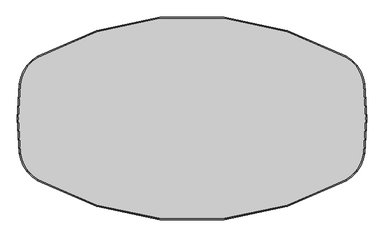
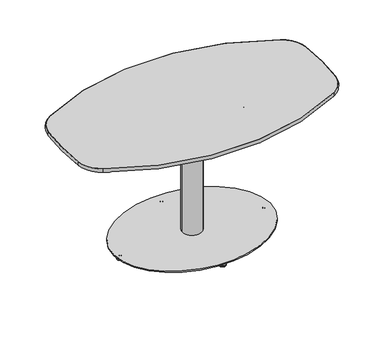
"""IFC4 building model written with IfcOpenShell, lengths in millimetres: furniture geometry, SmithSystem_AM_Table_Education_Flowform_LearnLounge_CurvedRectangle : NoPower."""

from ifc_helpers import new_model, si_unit, point, frame, frame_2d, origin, origin_2d, place, context, project, spatial, polyline, circle_curve, ellipse_curve, trimmed, segment, composite_curve, outline, extrude, faceted_brep, source, transform, mapped, element, save
from ifc_brep_helpers import plane_surface, cylinder_surface, revolved_surface, extruded_surface, advanced_brep


def furniture_f4e4fc7d(model_context):
    return source(origin(), model_context, "Body", "SolidModel", [
        advanced_brep(
        [(598.6241504, -239.2957646, 696.5415682), (-598.6241504, -239.2957646, 696.5415682), (-598.6241504, -239.2957646, 715.5915682), (598.6241504, -239.2957646, 715.5915682), (599.1128879, -240.1598287, 715.5915682), (-599.1128879, -240.1598287, 715.5915682), (-599.1128879, -240.1598287, 696.5415682), (599.1128879, -240.1598287, 696.5415682), (668.5184103, 133.0880849, 696.5415682), (668.4683181, -133.387539, 696.5415682), (668.4683181, -133.387539, 715.5915682), (668.5184103, 133.0880849, 715.5915682), (669.5051621, 133.1966758, 715.5915682), (669.455029, -133.4965009, 715.5915682), (669.455029, -133.4965009, 696.5415682), (669.5051621, 133.1966758, 696.5415682), (598.4102532, 239.416722, 696.5415682), (598.4102532, 239.416722, 715.5915682), (598.898816, 240.2808849, 715.5915682), (598.898816, 240.2808849, 696.5415682), (-598.4102532, 239.416722, 696.5415682), (-598.4102532, 239.416722, 715.5915682), (-598.898816, 240.2808849, 715.5915682), (-598.898816, 240.2808849, 696.5415682), (-668.5184103, 133.0880849, 696.5415682), (-668.5184103, 133.0880849, 715.5915682), (-669.5051621, 133.1966758, 715.5915682), (-669.5051621, 133.1966758, 696.5415682), (-668.4683181, -133.387539, 696.5415682), (-668.4683181, -133.387539, 715.5915682), (-669.455029, -133.4965009, 715.5915682), (-669.455029, -133.4965009, 696.5415682)],
        [
            (0, 1, circle_curve(frame((0.0, 819.0426475, 696.5415682), z_axis=(0.0, 0.0, -1.0), x_axis=(-0.49232704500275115, -0.8704102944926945, 0.0)), 1215.907508)),
            (1, 2),
            (2, 3, circle_curve(frame((0.0, 819.0426475, 715.5915682), z_axis=(0.0, 0.0, 1.0), x_axis=(-0.49232704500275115, -0.8704102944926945, 0.0)), 1215.907508)),
            (3, 0),
            (4, 5, circle_curve(frame((0.0, 819.0426475, 715.5915682), z_axis=(0.0, 0.0, -1.0), x_axis=(-0.49232704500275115, -0.8704102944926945, 0.0)), 1216.900217)),
            (5, 6, circle_curve(frame((-592.6026809, -228.650099, 706.0665682), z_axis=(0.8704102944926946, -0.492327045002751, 0.0), x_axis=(0.492327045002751, 0.8704102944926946, 0.0)), 16.2966959)),
            (6, 7, circle_curve(frame((0.0, 819.0426475, 696.5415682), z_axis=(0.0, 0.0, 1.0), x_axis=(-0.49232704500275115, -0.8704102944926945, 0.0)), 1216.900217)),
            (7, 4, circle_curve(frame((592.6026809, -228.650099, 706.0665682), z_axis=(-0.8704102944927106, -0.4923270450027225, 0.0), x_axis=(-0.4923270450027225, 0.8704102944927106, 0.0)), 16.2966959)),
            (8, 9, circle_curve(frame((-540.1313615, 0.0774707, 696.5415682), z_axis=(0.0, 0.0, -1.0), x_axis=(0.9939578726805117, -0.109762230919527, 0.0)), 1215.9465837)),
            (9, 10),
            (10, 11, circle_curve(frame((-540.1313615, 0.0774707, 715.5915682), z_axis=(0.0, 0.0, 1.0), x_axis=(0.9939578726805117, -0.109762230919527, 0.0)), 1215.9465837)),
            (11, 8),
            (12, 13, circle_curve(frame((-540.1313615, 0.0774707, 715.5915682), z_axis=(0.0, 0.0, -1.0), x_axis=(0.9939578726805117, -0.109762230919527, 0.0)), 1216.9392927)),
            (13, 14, circle_curve(frame((656.3115879, -132.0450778, 706.0665682), z_axis=(0.10976223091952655, 0.9939578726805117, 0.0), x_axis=(-0.9939578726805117, 0.10976223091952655, 0.0)), 16.2966959)),
            (14, 15, circle_curve(frame((-540.1313615, 0.0774707, 696.5415682), z_axis=(0.0, 0.0, 1.0), x_axis=(0.9939578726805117, -0.109762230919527, 0.0)), 1216.9392927)),
            (15, 12, circle_curve(frame((656.3611762, 131.7501943, 706.0665682), z_axis=(0.10938853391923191, -0.9939990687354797, 0.0), x_axis=(-0.9939990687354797, -0.10938853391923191, 0.0)), 16.2966959)),
            (16, 8, circle_curve(frame((529.6567404, 117.8065067, 696.5415682), z_axis=(0.0, 0.0, -1.0), x_axis=(0.9939990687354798, 0.10938853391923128, 0.0)), 139.7)),
            (11, 17, circle_curve(frame((529.6567404, 117.8065067, 715.5915682), z_axis=(0.0, 0.0, 1.0), x_axis=(0.9939990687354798, 0.10938853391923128, 0.0)), 139.7)),
            (17, 16),
            (18, 12, circle_curve(frame((529.6567404, 117.8065067, 715.5915682), z_axis=(0.0, 0.0, -1.0), x_axis=(0.9939990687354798, 0.10938853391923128, 0.0)), 140.692709)),
            (15, 19, circle_curve(frame((529.6567404, 117.8065067, 696.5415682), z_axis=(0.0, 0.0, 1.0), x_axis=(0.9939990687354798, 0.10938853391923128, 0.0)), 140.692709)),
            (19, 18, circle_curve(frame((592.3909352, 228.7698398, 706.0665682), z_axis=(0.8705097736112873, -0.49215112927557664, 0.0), x_axis=(-0.49215112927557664, -0.8705097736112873, 0.0)), 16.2966959)),
            (20, 16, circle_curve(frame((0.0, -819.0426475, 696.5415682), z_axis=(0.0, 0.0, -1.0), x_axis=(0.49215112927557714, 0.870509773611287, 0.0)), 1215.907508)),
            (17, 21, circle_curve(frame((0.0, -819.0426475, 715.5915682), z_axis=(0.0, 0.0, 1.0), x_axis=(0.49215112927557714, 0.870509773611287, 0.0)), 1215.907508)),
            (21, 20),
            (22, 18, circle_curve(frame((0.0, -819.0426475, 715.5915682), z_axis=(0.0, 0.0, -1.0), x_axis=(0.49215112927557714, 0.870509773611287, 0.0)), 1216.900217)),
            (19, 23, circle_curve(frame((0.0, -819.0426475, 696.5415682), z_axis=(0.0, 0.0, 1.0), x_axis=(0.49215112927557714, 0.870509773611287, 0.0)), 1216.900217)),
            (23, 22, circle_curve(frame((-592.3909352, 228.7698398, 706.0665682), z_axis=(0.8705097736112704, 0.4921511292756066, 0.0), x_axis=(0.4921511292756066, -0.8705097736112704, 0.0)), 16.2966959)),
            (24, 20, circle_curve(frame((-529.6567404, 117.8065067, 696.5415682), z_axis=(0.0, 0.0, -1.0), x_axis=(-0.49215112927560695, 0.8705097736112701, 0.0)), 139.7)),
            (21, 25, circle_curve(frame((-529.6567404, 117.8065067, 715.5915682), z_axis=(0.0, 0.0, 1.0), x_axis=(-0.49215112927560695, 0.8705097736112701, 0.0)), 139.7)),
            (25, 24),
            (26, 22, circle_curve(frame((-529.6567404, 117.8065067, 715.5915682), z_axis=(0.0, 0.0, -1.0), x_axis=(-0.49215112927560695, 0.8705097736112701, 0.0)), 140.692709)),
            (23, 27, circle_curve(frame((-529.6567404, 117.8065067, 696.5415682), z_axis=(0.0, 0.0, 1.0), x_axis=(-0.49215112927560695, 0.8705097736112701, 0.0)), 140.692709)),
            (27, 26, circle_curve(frame((-656.3611762, 131.7501943, 706.0665682), z_axis=(0.10938853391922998, 0.99399906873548, 0.0), x_axis=(0.99399906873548, -0.10938853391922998, 0.0)), 16.2966959)),
            (28, 24, circle_curve(frame((540.1313615, 0.0774707, 696.5415682), z_axis=(0.0, 0.0, -1.0), x_axis=(-0.9939990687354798, 0.10938853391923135, 0.0)), 1215.9465837)),
            (25, 29, circle_curve(frame((540.1313615, 0.0774707, 715.5915682), z_axis=(0.0, 0.0, 1.0), x_axis=(-0.9939990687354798, 0.10938853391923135, 0.0)), 1215.9465837)),
            (29, 28),
            (30, 26, circle_curve(frame((540.1313615, 0.0774707, 715.5915682), z_axis=(0.0, 0.0, -1.0), x_axis=(-0.9939990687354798, 0.10938853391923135, 0.0)), 1216.9392927)),
            (27, 31, circle_curve(frame((540.1313615, 0.0774707, 696.5415682), z_axis=(0.0, 0.0, 1.0), x_axis=(-0.9939990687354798, 0.10938853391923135, 0.0)), 1216.9392927)),
            (31, 30, circle_curve(frame((-656.3115879, -132.0450778, 706.0665682), z_axis=(-0.10976223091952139, 0.9939578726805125, 0.0), x_axis=(0.9939578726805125, 0.10976223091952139, 0.0)), 16.2966959)),
            (1, 28, circle_curve(frame((-530.0753875, -118.1048824, 696.5415682), z_axis=(0.0, 0.0, -1.0), x_axis=(-0.9939578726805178, -0.10976223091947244, 0.0)), 139.2342014)),
            (29, 2, circle_curve(frame((-530.0753875, -118.1048824, 715.5915682), z_axis=(0.0, 0.0, 1.0), x_axis=(-0.9939578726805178, -0.10976223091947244, 0.0)), 139.2342014)),
            (5, 30, circle_curve(frame((-530.0753875, -118.1048824, 715.5915682), z_axis=(0.0, 0.0, -1.0), x_axis=(-0.9939578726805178, -0.10976223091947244, 0.0)), 140.2269104)),
            (31, 6, circle_curve(frame((-530.0753875, -118.1048824, 696.5415682), z_axis=(0.0, 0.0, 1.0), x_axis=(-0.9939578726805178, -0.10976223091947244, 0.0)), 140.2269104)),
            (9, 0, circle_curve(frame((530.0753875, -118.1048824, 696.5415682), z_axis=(0.0, 0.0, -1.0), x_axis=(0.49232704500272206, -0.8704102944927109, 0.0)), 139.2342014)),
            (3, 10, circle_curve(frame((530.0753875, -118.1048824, 715.5915682), z_axis=(0.0, 0.0, 1.0), x_axis=(0.49232704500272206, -0.8704102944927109, 0.0)), 139.2342014)),
            (14, 7, circle_curve(frame((530.0753875, -118.1048824, 696.5415682), z_axis=(0.0, 0.0, -1.0), x_axis=(0.49232704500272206, -0.8704102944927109, 0.0)), 140.2269104)),
            (13, 4, circle_curve(frame((530.0753875, -118.1048824, 715.5915682), z_axis=(0.0, 0.0, -1.0), x_axis=(0.49232704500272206, -0.8704102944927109, 0.0)), 140.2269104)),
        ],
        [
            revolved_surface(polyline([(-598.624150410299, -239.2957646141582, 715.5915682), (-598.624150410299, -239.2957646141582, 696.5415682)]), (0.0, 819.0426475, 0.0), (0.0, 0.0, 1.0)),
            revolved_surface(trimmed(ellipse_curve(frame((-592.6026809, -228.650099, 706.0665682), z_axis=(-0.8704102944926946, 0.492327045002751, 0.0), x_axis=(0.492327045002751, 0.8704102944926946, 0.0)), 16.2966959, 16.2966959), [point((-599.1128879, -240.1598287, 696.5415682))], [point((-599.1128879, -240.1598287, 715.5915682))], True, "CARTESIAN"), (0.0, 819.0426475, 0.0), (0.0, 0.0, 1.0)),
            revolved_surface(polyline([(668.4683181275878, -133.38753900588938, 715.5915682), (668.4683181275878, -133.38753900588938, 696.5415682)]), (-540.1313615, 0.0774707, 0.0), (0.0, 0.0, 1.0)),
            revolved_surface(trimmed(ellipse_curve(frame((656.3115879, -132.0450778, 706.0665682), z_axis=(-0.10976223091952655, -0.9939578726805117, 0.0), x_axis=(-0.9939578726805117, 0.10976223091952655, 0.0)), 16.2966959, 16.2966959), [point((669.455029, -133.4965009, 696.5415682))], [point((669.455029, -133.4965009, 715.5915682))], True, "CARTESIAN"), (-540.1313615, 0.0774707, 0.0), (0.0, 0.0, 1.0)),
            revolved_surface(polyline([(668.5184103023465, 133.08808488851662, 715.5915682), (668.5184103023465, 133.08808488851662, 696.5415682)]), (529.6567404, 117.8065067, 0.0), (0.0, 0.0, 1.0)),
            revolved_surface(trimmed(ellipse_curve(frame((656.3611762, 131.7501943, 706.0665682), z_axis=(0.10938853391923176, -0.9939990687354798, 0.0), x_axis=(-0.9939990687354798, -0.10938853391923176, 0.0)), 16.2966959, 16.2966959), [point((669.5051621, 133.1966758, 696.5415682))], [point((669.5051621, 133.1966758, 715.5915682))], True, "CARTESIAN"), (529.6567404, 117.8065067, 0.0), (0.0, 0.0, 1.0)),
            revolved_surface(polyline([(598.4102531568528, 239.41672202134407, 715.5915682), (598.4102531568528, 239.41672202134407, 696.5415682)]), (0.0, -819.0426475, 0.0), (0.0, 0.0, 1.0)),
            revolved_surface(trimmed(ellipse_curve(frame((592.3909352, 228.7698398, 706.0665682), z_axis=(0.8705097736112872, -0.49215112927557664, 0.0), x_axis=(-0.49215112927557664, -0.8705097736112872, 0.0)), 16.2966959, 16.2966959), [point((598.898816, 240.2808849, 696.5415682))], [point((598.898816, 240.2808849, 715.5915682))], True, "CARTESIAN"), (0.0, -819.0426475, 0.0), (0.0, 0.0, 1.0)),
            revolved_surface(polyline([(-598.4102531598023, 239.41672207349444, 715.5915682), (-598.4102531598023, 239.41672207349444, 696.5415682)]), (-529.6567404, 117.8065067, 0.0), (0.0, 0.0, 1.0)),
            revolved_surface(trimmed(ellipse_curve(frame((-592.3909352, 228.7698398, 706.0665682), z_axis=(0.8705097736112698, 0.49215112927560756, 0.0), x_axis=(0.49215112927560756, -0.8705097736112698, 0.0)), 16.2966959, 16.2966959), [point((-598.898816, 240.2808849, 696.5415682))], [point((-598.898816, 240.2808849, 715.5915682))], True, "CARTESIAN"), (-529.6567404, 117.8065067, 0.0), (0.0, 0.0, 1.0)),
            revolved_surface(polyline([(-668.5184103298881, 133.08808481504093, 715.5915682), (-668.5184103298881, 133.08808481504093, 696.5415682)]), (540.1313615, 0.0774707, 0.0), (0.0, 0.0, 1.0)),
            revolved_surface(trimmed(ellipse_curve(frame((-656.3611762, 131.7501943, 706.0665682), z_axis=(0.10938853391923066, 0.9939990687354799, 0.0), x_axis=(0.9939990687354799, -0.10938853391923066, 0.0)), 16.2966959, 16.2966959), [point((-669.5051621, 133.1966758, 696.5415682))], [point((-669.5051621, 133.1966758, 715.5915682))], True, "CARTESIAN"), (540.1313615, 0.0774707, 0.0), (0.0, 0.0, 1.0)),
            revolved_surface(polyline([(-668.4683181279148, -133.38753896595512, 715.5915682), (-668.4683181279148, -133.38753896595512, 696.5415682)]), (-530.0753875, -118.1048824, 0.0), (0.0, 0.0, 1.0)),
            revolved_surface(trimmed(ellipse_curve(frame((-656.3115879, -132.0450778, 706.0665682), z_axis=(-0.10976223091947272, 0.9939578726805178, 0.0), x_axis=(0.9939578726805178, 0.10976223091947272, 0.0)), 16.2966959, 16.2966959), [point((-669.455029, -133.4965009, 696.5415682))], [point((-669.455029, -133.4965009, 715.5915682))], True, "CARTESIAN"), (-530.0753875, -118.1048824, 0.0), (0.0, 0.0, 1.0)),
            revolved_surface(polyline([(598.624150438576, -239.2957646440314, 715.5915682), (598.624150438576, -239.2957646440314, 696.5415682)]), (530.0753875, -118.1048824, 0.0), (0.0, 0.0, 1.0)),
            plane_surface(frame((530.0753875, -118.1048824, 696.5415682), z_axis=(0.0, 0.0, -1.0), x_axis=(0.49232704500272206, -0.8704102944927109, 0.0))),
            revolved_surface(trimmed(ellipse_curve(frame((592.6026809, -228.650099, 706.0665682), z_axis=(-0.8704102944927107, -0.4923270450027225, 0.0), x_axis=(-0.4923270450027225, 0.8704102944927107, 0.0)), 16.2966959, 16.2966959), [point((599.1128879, -240.1598287, 696.5415682))], [point((599.1128879, -240.1598287, 715.5915682))], True, "CARTESIAN"), (530.0753875, -118.1048824, 0.0), (0.0, 0.0, 1.0)),
            plane_surface(frame((530.0753875, -118.1048824, 715.5915682), z_axis=(0.0, 0.0, 1.0), x_axis=(0.49232704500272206, -0.8704102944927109, 0.0))),
        ],
        [
            (0, [[1, 2, 3, 4]]),
            (1, [[5, 6, 7, 8]]),
            (2, [[9, 10, 11, 12]]),
            (3, [[13, 14, 15, 16]]),
            (4, [[17, -12, 18, 19]]),
            (5, [[20, -16, 21, 22]]),
            (6, [[23, -19, 24, 25]]),
            (7, [[26, -22, 27, 28]]),
            (8, [[29, -25, 30, 31]]),
            (9, [[32, -28, 33, 34]]),
            (10, [[35, -31, 36, 37]]),
            (11, [[38, -34, 39, 40]]),
            (12, [[41, -37, 42, -2]]),
            (13, [[43, -40, 44, -6]]),
            (14, [[45, -4, 46, -10]]),
            (15, [[47, -7, -44, -39, -33, -27, -21, -15], [-35, -41, -1, -45, -9, -17, -23, -29]]),
            (16, [[48, -8, -47, -14]]),
            (17, [[-38, -43, -5, -48, -13, -20, -26, -32], [-46, -3, -42, -36, -30, -24, -18, -11]]),
        ],
    ),
        extrude(outline(composite_curve([segment(trimmed(circle_curve(frame_2d((540.1313615, 0.0774707)), 1215.9465837), [point((-668.4683181, -133.387539))], [point((-668.5184103, 133.0880849))], False, "CARTESIAN"), True, "CONTINUOUS"), segment(trimmed(circle_curve(frame_2d((-529.6567404, 117.8065067)), 139.7), [point((-668.5184103, 133.0880849))], [point((-598.4102532, 239.416722))], False, "CARTESIAN"), True, "CONTINUOUS"), segment(trimmed(circle_curve(frame_2d((0.0, -819.0426475)), 1215.907508), [point((-598.4102532, 239.416722))], [point((598.4102532, 239.416722))], False, "CARTESIAN"), True, "CONTINUOUS"), segment(trimmed(circle_curve(frame_2d((529.6567404, 117.8065067)), 139.7), [point((598.4102532, 239.416722))], [point((668.5184103, 133.0880849))], False, "CARTESIAN"), True, "CONTINUOUS"), segment(trimmed(circle_curve(frame_2d((-540.1313615, 0.0774707)), 1215.9465837), [point((668.5184103, 133.0880849))], [point((668.4683181, -133.387539))], False, "CARTESIAN"), True, "CONTINUOUS"), segment(trimmed(circle_curve(frame_2d((530.0753875, -118.1048824)), 139.2342014), [point((668.4683181, -133.387539))], [point((598.6241504, -239.2957646))], False, "CARTESIAN"), True, "CONTINUOUS"), segment(trimmed(circle_curve(frame_2d((0.0, 819.0426475)), 1215.907508), [point((598.6241504, -239.2957646))], [point((-598.6241504, -239.2957646))], False, "CARTESIAN"), True, "CONTINUOUS"), segment(trimmed(circle_curve(frame_2d((-530.0753875, -118.1048824)), 139.2342014), [point((-598.6241504, -239.2957646))], [point((-668.4683181, -133.387539))], False, "CARTESIAN"), True, "CONTINUOUS")], self_intersect=False)), frame((0.0, 0.0, 696.5415682), z_axis=(0.0, 0.0, 1.0), x_axis=(1.0, 0.0, 0.0)), (0.0, 0.0, 1.0), 19.05),
        faceted_brep([(84.6581956, 84.4295951, 688.0173792), (-84.198458, 84.4295951, 688.0173792), (-84.198458, -84.427063, 688.0173792), (84.6581956, -84.427063, 688.0173792), (66.4864882, 66.33972, 665.6324083), (66.4864882, -66.3371788, 665.6324083), (-66.1085784, -66.3371788, 665.6324083), (-66.1085784, 66.33972, 665.6324083)], [[[0, 1, 2, 3]], [[4, 5, 6, 7]], [[4, 7, 1, 0]], [[7, 6, 2, 1]], [[6, 5, 3, 2]], [[5, 4, 0, 3]]]),
        extrude(outline(polyline([(117.706142, 117.4775461), (117.706142, -117.4750004), (-117.243861, -117.4750004), (-117.243861, 117.4775461), (117.706142, 117.4775461)])), frame((0.0, 0.0, 688.0173792), z_axis=(0.0, 0.0, 1.0), x_axis=(1.0, 0.0, 0.0)), (0.0, 0.0, 1.0), 3.0226353),
        extrude(outline(composite_curve([segment(trimmed(circle_curve(origin_2d(), 51.0307352), [point((-51.0307352, 0.0))], [point((51.0307352, 0.0))], False, "CARTESIAN"), True, "CONTINUOUS"), segment(trimmed(circle_curve(origin_2d(), 51.0307352), [point((51.0307352, 0.0))], [point((-51.0307352, 0.0))], False, "CARTESIAN"), True, "CONTINUOUS")], self_intersect=False), holes=[composite_curve([segment(trimmed(circle_curve(origin_2d(), 49.8623383), [point((-49.8623383, 0.0))], [point((49.8623383, 0.0))], True, "CARTESIAN"), True, "CONTINUOUS"), segment(trimmed(circle_curve(origin_2d(), 49.8623383), [point((49.8623383, 0.0))], [point((-49.8623383, 0.0))], True, "CARTESIAN"), True, "CONTINUOUS")], self_intersect=False)]), frame((0.0, 0.0, 30.4800005), z_axis=(0.0, 0.0, 1.0), x_axis=(1.0, 0.0, 0.0)), (0.0, 0.0, 1.0), 635.1524079),
        extrude(outline(composite_curve([segment(trimmed(circle_curve(frame_2d((381.2286319, 49.6219644)), 25.4), [point((390.780639, 73.1574517))], [point((406.6286319, 49.6219644))], False, "CARTESIAN"), True, "CONTINUOUS"), segment(polyline([(406.6286319, 49.6219644), (406.6286319, -49.6194278)]), True, "CONTINUOUS"), segment(trimmed(circle_curve(frame_2d((381.2286319, -49.6194278)), 25.4), [point((406.6286319, -49.6194278))], [point((390.7806401, -73.1549146))], False, "CARTESIAN"), True, "CONTINUOUS"), segment(trimmed(circle_curve(frame_2d((0.2298915, 889.135086)), 1038.52392), [point((390.7806401, -73.1549146))], [point((-393.4994358, -71.8587481))], False, "CARTESIAN"), True, "CONTINUOUS"), segment(trimmed(circle_curve(frame_2d((-381.2286319, -49.6194278)), 25.4), [point((-393.4994358, -71.8587481))], [point((-406.6286319, -49.6194278))], False, "CARTESIAN"), True, "CONTINUOUS"), segment(polyline([(-406.6286319, -49.6194278), (-406.6286319, 49.6219644)]), True, "CONTINUOUS"), segment(trimmed(circle_curve(frame_2d((-381.2286319, 49.6219644)), 25.4), [point((-406.6286319, 49.6219644))], [point((-387.948128, 74.1170327))], False, "CARTESIAN"), True, "CONTINUOUS"), segment(trimmed(circle_curve(frame_2d((0.2298915, -889.1326731)), 1038.5240346), [point((-387.948128, 74.1170327))], [point((390.780639, 73.1574517))], False, "CARTESIAN"), True, "CONTINUOUS")], self_intersect=False), holes=[composite_curve([segment(trimmed(circle_curve(frame_2d((-386.0367929, 53.1685479)), 6.1861697), [point((-392.2229625, 53.1685479))], [point((-379.8506232, 53.1685479))], True, "CARTESIAN"), True, "CONTINUOUS"), segment(trimmed(circle_curve(frame_2d((-386.0367929, 53.1685479)), 6.1861697), [point((-379.8506232, 53.1685479))], [point((-392.2229625, 53.1685479))], True, "CARTESIAN"), True, "CONTINUOUS")], self_intersect=False), composite_curve([segment(trimmed(circle_curve(frame_2d((-292.9890022, 87.2680426)), 6.1861697), [point((-299.1751719, 87.2680426))], [point((-286.8028325, 87.2680426))], True, "CARTESIAN"), True, "CONTINUOUS"), segment(trimmed(circle_curve(frame_2d((-292.9890022, 87.2680426)), 6.1861697), [point((-286.8028325, 87.2680426))], [point((-299.1751719, 87.2680426))], True, "CARTESIAN"), True, "CONTINUOUS")], self_intersect=False), composite_curve([segment(trimmed(circle_curve(frame_2d((-196.8017411, 111.1262702)), 6.1861697), [point((-202.9879108, 111.1262702))], [point((-190.6155714, 111.1262702))], True, "CARTESIAN"), True, "CONTINUOUS"), segment(trimmed(circle_curve(frame_2d((-196.8017411, 111.1262702)), 6.1861697), [point((-190.6155714, 111.1262702))], [point((-202.9879108, 111.1262702))], True, "CARTESIAN"), True, "CONTINUOUS")], self_intersect=False), composite_curve([segment(trimmed(circle_curve(frame_2d((-98.7526568, 125.5331488)), 6.1861697), [point((-104.9388265, 125.5331488))], [point((-92.5664872, 125.5331488))], True, "CARTESIAN"), True, "CONTINUOUS"), segment(trimmed(circle_curve(frame_2d((-98.7526568, 125.5331488)), 6.1861697), [point((-92.5664872, 125.5331488))], [point((-104.9388265, 125.5331488))], True, "CARTESIAN"), True, "CONTINUOUS")], self_intersect=False), composite_curve([segment(trimmed(circle_curve(frame_2d((0.0, 130.2772487)), 6.1861697), [point((-6.1861697, 130.2772487))], [point((6.1861697, 130.2772487))], True, "CARTESIAN"), True, "CONTINUOUS"), segment(trimmed(circle_curve(frame_2d((0.0, 130.2772487)), 6.1861697), [point((6.1861697, 130.2772487))], [point((-6.1861697, 130.2772487))], True, "CARTESIAN"), True, "CONTINUOUS")], self_intersect=False), composite_curve([segment(trimmed(circle_curve(frame_2d((386.0367929, 53.1685479)), 6.1861697), [point((379.8506232, 53.1685479))], [point((392.2229625, 53.1685479))], True, "CARTESIAN"), True, "CONTINUOUS"), segment(trimmed(circle_curve(frame_2d((386.0367929, 53.1685479)), 6.1861697), [point((392.2229625, 53.1685479))], [point((379.8506232, 53.1685479))], True, "CARTESIAN"), True, "CONTINUOUS")], self_intersect=False), composite_curve([segment(trimmed(circle_curve(frame_2d((292.9890022, 87.2680426)), 6.1861697), [point((286.8028325, 87.2680426))], [point((299.1751719, 87.2680426))], True, "CARTESIAN"), True, "CONTINUOUS"), segment(trimmed(circle_curve(frame_2d((292.9890022, 87.2680426)), 6.1861697), [point((299.1751719, 87.2680426))], [point((286.8028325, 87.2680426))], True, "CARTESIAN"), True, "CONTINUOUS")], self_intersect=False), composite_curve([segment(trimmed(circle_curve(frame_2d((196.8017411, 111.1262702)), 6.1861697), [point((190.6155714, 111.1262702))], [point((202.9879108, 111.1262702))], True, "CARTESIAN"), True, "CONTINUOUS"), segment(trimmed(circle_curve(frame_2d((196.8017411, 111.1262702)), 6.1861697), [point((202.9879108, 111.1262702))], [point((190.6155714, 111.1262702))], True, "CARTESIAN"), True, "CONTINUOUS")], self_intersect=False), composite_curve([segment(trimmed(circle_curve(frame_2d((98.7526568, 125.5331488)), 6.1861697), [point((92.5664872, 125.5331488))], [point((104.9388265, 125.5331488))], True, "CARTESIAN"), True, "CONTINUOUS"), segment(trimmed(circle_curve(frame_2d((98.7526568, 125.5331488)), 6.1861697), [point((104.9388265, 125.5331488))], [point((92.5664872, 125.5331488))], True, "CARTESIAN"), True, "CONTINUOUS")], self_intersect=False), composite_curve([segment(trimmed(circle_curve(frame_2d((-386.0367929, -53.1685479)), 6.1861697), [point((-392.2229625, -53.1685479))], [point((-379.8506232, -53.1685479))], True, "CARTESIAN"), True, "CONTINUOUS"), segment(trimmed(circle_curve(frame_2d((-386.0367929, -53.1685479)), 6.1861697), [point((-379.8506232, -53.1685479))], [point((-392.2229625, -53.1685479))], True, "CARTESIAN"), True, "CONTINUOUS")], self_intersect=False), composite_curve([segment(trimmed(circle_curve(frame_2d((-292.9890022, -87.2680426)), 6.1861697), [point((-299.1751719, -87.2680426))], [point((-286.8028325, -87.2680426))], True, "CARTESIAN"), True, "CONTINUOUS"), segment(trimmed(circle_curve(frame_2d((-292.9890022, -87.2680426)), 6.1861697), [point((-286.8028325, -87.2680426))], [point((-299.1751719, -87.2680426))], True, "CARTESIAN"), True, "CONTINUOUS")], self_intersect=False), composite_curve([segment(trimmed(circle_curve(frame_2d((-196.8017411, -111.1262702)), 6.1861697), [point((-202.9879108, -111.1262702))], [point((-190.6155714, -111.1262702))], True, "CARTESIAN"), True, "CONTINUOUS"), segment(trimmed(circle_curve(frame_2d((-196.8017411, -111.1262702)), 6.1861697), [point((-190.6155714, -111.1262702))], [point((-202.9879108, -111.1262702))], True, "CARTESIAN"), True, "CONTINUOUS")], self_intersect=False), composite_curve([segment(trimmed(circle_curve(frame_2d((-98.7526568, -125.5331488)), 6.1861697), [point((-104.9388265, -125.5331488))], [point((-92.5664872, -125.5331488))], True, "CARTESIAN"), True, "CONTINUOUS"), segment(trimmed(circle_curve(frame_2d((-98.7526568, -125.5331488)), 6.1861697), [point((-92.5664872, -125.5331488))], [point((-104.9388265, -125.5331488))], True, "CARTESIAN"), True, "CONTINUOUS")], self_intersect=False), composite_curve([segment(trimmed(circle_curve(frame_2d((0.0, -130.2772487)), 6.1861697), [point((-6.1861697, -130.2772487))], [point((6.1861697, -130.2772487))], True, "CARTESIAN"), True, "CONTINUOUS"), segment(trimmed(circle_curve(frame_2d((0.0, -130.2772487)), 6.1861697), [point((6.1861697, -130.2772487))], [point((-6.1861697, -130.2772487))], True, "CARTESIAN"), True, "CONTINUOUS")], self_intersect=False), composite_curve([segment(trimmed(circle_curve(frame_2d((386.0367929, -53.1685479)), 6.1861697), [point((379.8506232, -53.1685479))], [point((392.2229625, -53.1685479))], True, "CARTESIAN"), True, "CONTINUOUS"), segment(trimmed(circle_curve(frame_2d((386.0367929, -53.1685479)), 6.1861697), [point((392.2229625, -53.1685479))], [point((379.8506232, -53.1685479))], True, "CARTESIAN"), True, "CONTINUOUS")], self_intersect=False), composite_curve([segment(trimmed(circle_curve(frame_2d((292.9890022, -87.2680426)), 6.1861697), [point((286.8028325, -87.2680426))], [point((299.1751719, -87.2680426))], True, "CARTESIAN"), True, "CONTINUOUS"), segment(trimmed(circle_curve(frame_2d((292.9890022, -87.2680426)), 6.1861697), [point((299.1751719, -87.2680426))], [point((286.8028325, -87.2680426))], True, "CARTESIAN"), True, "CONTINUOUS")], self_intersect=False), composite_curve([segment(trimmed(circle_curve(frame_2d((196.8017411, -111.1262702)), 6.1861697), [point((190.6155714, -111.1262702))], [point((202.9879108, -111.1262702))], True, "CARTESIAN"), True, "CONTINUOUS"), segment(trimmed(circle_curve(frame_2d((196.8017411, -111.1262702)), 6.1861697), [point((202.9879108, -111.1262702))], [point((190.6155714, -111.1262702))], True, "CARTESIAN"), True, "CONTINUOUS")], self_intersect=False), composite_curve([segment(trimmed(circle_curve(frame_2d((98.7526568, -125.5331488)), 6.1861697), [point((92.5664872, -125.5331488))], [point((104.9388265, -125.5331488))], True, "CARTESIAN"), True, "CONTINUOUS"), segment(trimmed(circle_curve(frame_2d((98.7526568, -125.5331488)), 6.1861697), [point((104.9388265, -125.5331488))], [point((92.5664872, -125.5331488))], True, "CARTESIAN"), True, "CONTINUOUS")], self_intersect=False)]), frame((0.0, 0.0, 691.0400145), z_axis=(0.0, 0.0, 1.0), x_axis=(1.0, 0.0, 0.0)), (0.0, 0.0, 1.0), 5.5015537),
        advanced_brep(
        [(0.0, 274.7331576, 0.0), (17.7495343, 274.7331576, 0.0), (-17.7495343, 274.7331576, 0.0), (17.7495343, 274.7331576, 3.570799), (-17.7495343, 274.7331576, 3.570799), (16.567463, 274.7331576, 5.0466319), (-16.567463, 274.7331576, 5.0466319), (7.9298575, 274.7331576, 10.1285507), (-7.9298575, 274.7331576, 10.1285507), (7.9298575, 274.7331576, 12.7000004), (-7.9298575, 274.7331576, 12.7000004), (5.3644618, 274.7331576, 12.7000004), (-5.3644618, 274.7331576, 12.7000004), (5.3644618, 274.7331576, 17.8079394), (-5.3644618, 274.7331576, 17.8079394), (0.0, 274.7331576, 17.8079394)],
        [
            (0, 1),
            (1, 2, circle_curve(frame((0.0, 274.7331576, 0.0), z_axis=(0.0, 0.0, -1.0), x_axis=(1.0, 0.0, 0.0)), 17.7495343)),
            (2, 0),
            (2, 1, circle_curve(frame((0.0, 274.7331576, 0.0), z_axis=(0.0, 0.0, -1.0), x_axis=(1.0, 0.0, 0.0)), 17.7495343)),
            (1, 3),
            (3, 4, circle_curve(frame((0.0, 274.7331576, 3.570799), z_axis=(0.0, 0.0, -1.0), x_axis=(1.0, 0.0, 0.0)), 17.7495343)),
            (4, 2),
            (4, 3, circle_curve(frame((0.0, 274.7331576, 3.570799), z_axis=(0.0, 0.0, -1.0), x_axis=(1.0, 0.0, 0.0)), 17.7495343)),
            (3, 5, circle_curve(frame((16.2371994, 274.7331576, 3.570799), z_axis=(0.0, -1.0, 0.0), x_axis=(1.0, 0.0, 0.0)), 1.5123349)),
            (5, 6, circle_curve(frame((0.0, 274.7331576, 5.0466319), z_axis=(0.0, 0.0, -1.0), x_axis=(1.0, 0.0, 0.0)), 16.567463)),
            (6, 4, circle_curve(frame((-16.2371994, 274.7331576, 3.570799), z_axis=(0.0, -1.0, 0.0), x_axis=(-1.0, 0.0, 0.0)), 1.5123349)),
            (6, 5, circle_curve(frame((0.0, 274.7331576, 5.0466319), z_axis=(0.0, 0.0, -1.0), x_axis=(1.0, 0.0, 0.0)), 16.567463)),
            (5, 7, circle_curve(frame((20.1361155, 274.7331576, 20.9936944), z_axis=(0.0, 1.0, 0.0), x_axis=(1.0, 0.0, 0.0)), 16.3414834)),
            (7, 8, circle_curve(frame((0.0, 274.7331576, 10.1285507), z_axis=(0.0, 0.0, -1.0), x_axis=(1.0, 0.0, 0.0)), 7.9298575)),
            (8, 6, circle_curve(frame((-20.1361155, 274.7331576, 20.9936944), z_axis=(0.0, 1.0, 0.0), x_axis=(-1.0, 0.0, 0.0)), 16.3414834)),
            (8, 7, circle_curve(frame((0.0, 274.7331576, 10.1285507), z_axis=(0.0, 0.0, -1.0), x_axis=(1.0, 0.0, 0.0)), 7.9298575)),
            (7, 9, circle_curve(frame((7.33499, 274.7331576, 11.4142755), z_axis=(0.0, -1.0, 0.0), x_axis=(1.0, 0.0, 0.0)), 1.4166707)),
            (9, 10, circle_curve(frame((0.0, 274.7331576, 12.7000004), z_axis=(0.0, 0.0, -1.0), x_axis=(1.0, 0.0, 0.0)), 7.9298575)),
            (10, 8, circle_curve(frame((-7.33499, 274.7331576, 11.4142755), z_axis=(0.0, -1.0, 0.0), x_axis=(-1.0, 0.0, 0.0)), 1.4166707)),
            (10, 9, circle_curve(frame((0.0, 274.7331576, 12.7000004), z_axis=(0.0, 0.0, -1.0), x_axis=(1.0, 0.0, 0.0)), 7.9298575)),
            (9, 11),
            (11, 12, circle_curve(frame((0.0, 274.7331576, 12.7000004), z_axis=(0.0, 0.0, -1.0), x_axis=(1.0, 0.0, 0.0)), 5.3644618)),
            (12, 10),
            (12, 11, circle_curve(frame((0.0, 274.7331576, 12.7000004), z_axis=(0.0, 0.0, -1.0), x_axis=(1.0, 0.0, 0.0)), 5.3644618)),
            (11, 13),
            (13, 14, circle_curve(frame((0.0, 274.7331576, 17.8079394), z_axis=(0.0, 0.0, -1.0), x_axis=(1.0, 0.0, 0.0)), 5.3644618)),
            (14, 12),
            (14, 13, circle_curve(frame((0.0, 274.7331576, 17.8079394), z_axis=(0.0, 0.0, -1.0), x_axis=(1.0, 0.0, 0.0)), 5.3644618)),
            (13, 15),
            (15, 14),
        ],
        [
            plane_surface(frame((0.0, 274.7331576, 0.0), z_axis=(0.0, 0.0, -1.0), x_axis=(1.0, 0.0, 0.0))),
            cylinder_surface(frame((0.0, 274.7331576, 24.1299997), z_axis=(0.0, 0.0, -1.0), x_axis=(1.0, 0.0, 0.0)), 17.7495343),
            revolved_surface(trimmed(ellipse_curve(frame((16.2371994, 274.7331576, 3.570799), z_axis=(0.0, 1.0, 0.0), x_axis=(1.0, 0.0, 0.0)), 1.5123349, 1.5123349), [point((16.567463, 274.7331576, 5.0466319))], [point((17.7495343, 274.7331576, 3.570799))], True, "CARTESIAN"), (0.0, 274.7331576, 24.1299997), (0.0, 0.0, -1.0)),
            revolved_surface(trimmed(ellipse_curve(frame((20.1361155, 274.7331576, 20.9936944), z_axis=(0.0, -1.0, 0.0), x_axis=(1.0, 0.0, 0.0)), 16.3414834, 16.3414834), [point((7.9298575, 274.7331576, 10.1285507))], [point((16.567463, 274.7331576, 5.0466319))], True, "CARTESIAN"), (0.0, 274.7331576, 24.1299997), (0.0, 0.0, -1.0)),
            revolved_surface(trimmed(ellipse_curve(frame((7.33499, 274.7331576, 11.4142755), z_axis=(0.0, 1.0, 0.0), x_axis=(1.0, 0.0, 0.0)), 1.4166707, 1.4166707), [point((7.9298575, 274.7331576, 12.7000004))], [point((7.9298575, 274.7331576, 10.1285507))], True, "CARTESIAN"), (0.0, 274.7331576, 24.1299997), (0.0, 0.0, -1.0)),
            plane_surface(frame((0.0, 274.7331576, 12.7000004), z_axis=(0.0, 0.0, 1.0), x_axis=(1.0, 0.0, 0.0))),
            cylinder_surface(frame((0.0, 274.7331576, 24.1299997), z_axis=(0.0, 0.0, -1.0), x_axis=(1.0, 0.0, 0.0)), 5.3644618),
            plane_surface(frame((0.0, 274.7331576, 17.8079394), z_axis=(0.0, 0.0, 1.0), x_axis=(1.0, 0.0, 0.0))),
        ],
        [
            (0, [[1, 2, 3]]),
            (0, [[-3, 4, -1]]),
            (1, [[-2, 5, 6, 7]]),
            (1, [[-4, -7, 8, -5]]),
            (2, [[-6, 9, 10, 11]]),
            (2, [[-8, -11, 12, -9]]),
            (3, [[-10, 13, 14, 15]]),
            (3, [[-12, -15, 16, -13]]),
            (4, [[-14, 17, 18, 19]]),
            (4, [[-16, -19, 20, -17]]),
            (5, [[-18, 21, 22, 23]]),
            (5, [[-20, -23, 24, -21]]),
            (6, [[-22, 25, 26, 27]]),
            (6, [[-24, -27, 28, -25]]),
            (7, [[-26, 29, 30]]),
            (7, [[-28, -30, -29]]),
        ],
    ),
        advanced_brep(
        [(-17.7495343, -274.7331576, 0.0), (17.7495343, -274.7331576, 0.0), (0.0, -274.7331576, 0.0), (-17.7495343, -274.7331576, 3.570799), (17.7495343, -274.7331576, 3.570799), (-16.567463, -274.7331576, 5.0466319), (16.567463, -274.7331576, 5.0466319), (-7.9298575, -274.7331576, 10.1285507), (7.9298575, -274.7331576, 10.1285507), (-7.9298575, -274.7331576, 12.7000004), (7.9298575, -274.7331576, 12.7000004), (-5.3644618, -274.7331576, 12.7000004), (5.3644618, -274.7331576, 12.7000004), (-5.3644618, -274.7331576, 17.8079394), (5.3644618, -274.7331576, 17.8079394), (0.0, -274.7331576, 17.8079394)],
        [
            (0, 1, circle_curve(frame((0.0, -274.7331576, 0.0), z_axis=(0.0, 0.0, -1.0), x_axis=(1.0, 0.0, 0.0)), 17.7495343)),
            (1, 2),
            (2, 0),
            (1, 0, circle_curve(frame((0.0, -274.7331576, 0.0), z_axis=(0.0, 0.0, -1.0), x_axis=(1.0, 0.0, 0.0)), 17.7495343)),
            (3, 4, circle_curve(frame((0.0, -274.7331576, 3.570799), z_axis=(0.0, 0.0, -1.0), x_axis=(1.0, 0.0, 0.0)), 17.7495343)),
            (4, 1),
            (0, 3),
            (4, 3, circle_curve(frame((0.0, -274.7331576, 3.570799), z_axis=(0.0, 0.0, -1.0), x_axis=(1.0, 0.0, 0.0)), 17.7495343)),
            (5, 6, circle_curve(frame((0.0, -274.7331576, 5.0466319), z_axis=(0.0, 0.0, -1.0), x_axis=(1.0, 0.0, 0.0)), 16.567463)),
            (6, 4, circle_curve(frame((16.2371994, -274.7331576, 3.570799), z_axis=(0.0, 1.0, 0.0), x_axis=(1.0, 0.0, 0.0)), 1.5123349)),
            (3, 5, circle_curve(frame((-16.2371994, -274.7331576, 3.570799), z_axis=(0.0, 1.0, 0.0), x_axis=(-1.0, 0.0, 0.0)), 1.5123349)),
            (6, 5, circle_curve(frame((0.0, -274.7331576, 5.0466319), z_axis=(0.0, 0.0, -1.0), x_axis=(1.0, 0.0, 0.0)), 16.567463)),
            (7, 8, circle_curve(frame((0.0, -274.7331576, 10.1285507), z_axis=(0.0, 0.0, -1.0), x_axis=(1.0, 0.0, 0.0)), 7.9298575)),
            (8, 6, circle_curve(frame((20.1361155, -274.7331576, 20.9936944), z_axis=(0.0, -1.0, 0.0), x_axis=(1.0, 0.0, 0.0)), 16.3414834)),
            (5, 7, circle_curve(frame((-20.1361155, -274.7331576, 20.9936944), z_axis=(0.0, -1.0, 0.0), x_axis=(-1.0, 0.0, 0.0)), 16.3414834)),
            (8, 7, circle_curve(frame((0.0, -274.7331576, 10.1285507), z_axis=(0.0, 0.0, -1.0), x_axis=(1.0, 0.0, 0.0)), 7.9298575)),
            (9, 10, circle_curve(frame((0.0, -274.7331576, 12.7000004), z_axis=(0.0, 0.0, -1.0), x_axis=(1.0, 0.0, 0.0)), 7.9298575)),
            (10, 8, circle_curve(frame((7.33499, -274.7331576, 11.4142755), z_axis=(0.0, 1.0, 0.0), x_axis=(1.0, 0.0, 0.0)), 1.4166707)),
            (7, 9, circle_curve(frame((-7.33499, -274.7331576, 11.4142755), z_axis=(0.0, 1.0, 0.0), x_axis=(-1.0, 0.0, 0.0)), 1.4166707)),
            (10, 9, circle_curve(frame((0.0, -274.7331576, 12.7000004), z_axis=(0.0, 0.0, -1.0), x_axis=(1.0, 0.0, 0.0)), 7.9298575)),
            (11, 12, circle_curve(frame((0.0, -274.7331576, 12.7000004), z_axis=(0.0, 0.0, -1.0), x_axis=(1.0, 0.0, 0.0)), 5.3644618)),
            (12, 10),
            (9, 11),
            (12, 11, circle_curve(frame((0.0, -274.7331576, 12.7000004), z_axis=(0.0, 0.0, -1.0), x_axis=(1.0, 0.0, 0.0)), 5.3644618)),
            (13, 14, circle_curve(frame((0.0, -274.7331576, 17.8079394), z_axis=(0.0, 0.0, -1.0), x_axis=(1.0, 0.0, 0.0)), 5.3644618)),
            (14, 12),
            (11, 13),
            (14, 13, circle_curve(frame((0.0, -274.7331576, 17.8079394), z_axis=(0.0, 0.0, -1.0), x_axis=(1.0, 0.0, 0.0)), 5.3644618)),
            (15, 14),
            (13, 15),
        ],
        [
            plane_surface(frame((0.0, -274.7331576, 0.0), z_axis=(0.0, 0.0, -1.0), x_axis=(1.0, 0.0, 0.0))),
            cylinder_surface(frame((0.0, -274.7331576, 24.1299997), z_axis=(0.0, 0.0, 1.0), x_axis=(1.0, 0.0, 0.0)), 17.7495343),
            revolved_surface(trimmed(ellipse_curve(frame((16.2371994, -274.7331576, 3.570799), z_axis=(0.0, -1.0, 0.0), x_axis=(1.0, 0.0, 0.0)), 1.5123349, 1.5123349), [point((17.7495343, -274.7331576, 3.570799))], [point((16.567463, -274.7331576, 5.0466319))], True, "CARTESIAN"), (0.0, -274.7331576, 24.1299997), (0.0, 0.0, 1.0)),
            revolved_surface(trimmed(ellipse_curve(frame((20.1361155, -274.7331576, 20.9936944), z_axis=(0.0, 1.0, 0.0), x_axis=(1.0, 0.0, 0.0)), 16.3414834, 16.3414834), [point((16.567463, -274.7331576, 5.0466319))], [point((7.9298575, -274.7331576, 10.1285507))], True, "CARTESIAN"), (0.0, -274.7331576, 24.1299997), (0.0, 0.0, 1.0)),
            revolved_surface(trimmed(ellipse_curve(frame((7.33499, -274.7331576, 11.4142755), z_axis=(0.0, -1.0, 0.0), x_axis=(1.0, 0.0, 0.0)), 1.4166707, 1.4166707), [point((7.9298575, -274.7331576, 10.1285507))], [point((7.9298575, -274.7331576, 12.7000004))], True, "CARTESIAN"), (0.0, -274.7331576, 24.1299997), (0.0, 0.0, 1.0)),
            plane_surface(frame((0.0, -274.7331576, 12.7000004), z_axis=(0.0, 0.0, 1.0), x_axis=(1.0, 0.0, 0.0))),
            cylinder_surface(frame((0.0, -274.7331576, 24.1299997), z_axis=(0.0, 0.0, 1.0), x_axis=(1.0, 0.0, 0.0)), 5.3644618),
            plane_surface(frame((0.0, -274.7331576, 17.8079394), z_axis=(0.0, 0.0, 1.0), x_axis=(1.0, 0.0, 0.0))),
        ],
        [
            (0, [[1, 2, 3]]),
            (0, [[4, -3, -2]]),
            (1, [[5, 6, -1, 7]]),
            (1, [[8, -7, -4, -6]]),
            (2, [[9, 10, -5, 11]]),
            (2, [[12, -11, -8, -10]]),
            (3, [[13, 14, -9, 15]]),
            (3, [[16, -15, -12, -14]]),
            (4, [[17, 18, -13, 19]]),
            (4, [[20, -19, -16, -18]]),
            (5, [[21, 22, -17, 23]]),
            (5, [[24, -23, -20, -22]]),
            (6, [[25, 26, -21, 27]]),
            (6, [[28, -27, -24, -26]]),
            (7, [[29, -25, 30]]),
            (7, [[-30, -28, -29]]),
        ],
    ),
        advanced_brep(
        [(-372.8135811, 0.0, 0.0), (-390.5631154, 0.0, 0.0), (-355.0640468, 0.0, 0.0), (-390.5631154, 0.0, 3.570799), (-355.0640468, 0.0, 3.570799), (-389.3810441, 0.0, 5.0466319), (-356.2461181, 0.0, 5.0466319), (-380.7434386, 0.0, 10.1285507), (-364.8837235, 0.0, 10.1285507), (-380.7434386, 0.0, 12.7000004), (-364.8837235, 0.0, 12.7000004), (-378.1780429, 0.0, 12.7000004), (-367.4491193, 0.0, 12.7000004), (-378.1780429, 0.0, 17.8079394), (-367.4491193, 0.0, 17.8079394), (-372.8135811, 0.0, 17.8079394)],
        [
            (0, 1),
            (1, 2, circle_curve(frame((-372.8135811, 0.0, 0.0), z_axis=(0.0, 0.0, -1.0), x_axis=(-1.0, 0.0, 0.0)), 17.7495343)),
            (2, 0),
            (2, 1, circle_curve(frame((-372.8135811, 0.0, 0.0), z_axis=(0.0, 0.0, -1.0), x_axis=(-1.0, 0.0, 0.0)), 17.7495343)),
            (1, 3),
            (3, 4, circle_curve(frame((-372.8135811, 0.0, 3.570799), z_axis=(0.0, 0.0, -1.0), x_axis=(-1.0, 0.0, 0.0)), 17.7495343)),
            (4, 2),
            (4, 3, circle_curve(frame((-372.8135811, 0.0, 3.570799), z_axis=(0.0, 0.0, -1.0), x_axis=(-1.0, 0.0, 0.0)), 17.7495343)),
            (3, 5, circle_curve(frame((-389.0507805, 0.0, 3.570799), z_axis=(0.0, 1.0, 0.0), x_axis=(-1.0, 0.0, 0.0)), 1.5123349)),
            (5, 6, circle_curve(frame((-372.8135811, 0.0, 5.0466319), z_axis=(0.0, 0.0, -1.0), x_axis=(-1.0, 0.0, 0.0)), 16.567463)),
            (6, 4, circle_curve(frame((-356.5763817, 0.0, 3.570799), z_axis=(0.0, 1.0, 0.0), x_axis=(1.0, 0.0, 0.0)), 1.5123349)),
            (6, 5, circle_curve(frame((-372.8135811, 0.0, 5.0466319), z_axis=(0.0, 0.0, -1.0), x_axis=(-1.0, 0.0, 0.0)), 16.567463)),
            (5, 7, circle_curve(frame((-392.9496966, 0.0, 20.9936944), z_axis=(0.0, -1.0, 0.0), x_axis=(-1.0, 0.0, 0.0)), 16.3414834)),
            (7, 8, circle_curve(frame((-372.8135811, 0.0, 10.1285507), z_axis=(0.0, 0.0, -1.0), x_axis=(-1.0, 0.0, 0.0)), 7.9298575)),
            (8, 6, circle_curve(frame((-352.6774656, 0.0, 20.9936944), z_axis=(0.0, -1.0, 0.0), x_axis=(1.0, 0.0, 0.0)), 16.3414834)),
            (8, 7, circle_curve(frame((-372.8135811, 0.0, 10.1285507), z_axis=(0.0, 0.0, -1.0), x_axis=(-1.0, 0.0, 0.0)), 7.9298575)),
            (7, 9, circle_curve(frame((-380.1485711, 0.0, 11.4142755), z_axis=(0.0, 1.0, 0.0), x_axis=(-1.0, 0.0, 0.0)), 1.4166707)),
            (9, 10, circle_curve(frame((-372.8135811, 0.0, 12.7000004), z_axis=(0.0, 0.0, -1.0), x_axis=(-1.0, 0.0, 0.0)), 7.9298575)),
            (10, 8, circle_curve(frame((-365.4785911, 0.0, 11.4142755), z_axis=(0.0, 1.0, 0.0), x_axis=(1.0, 0.0, 0.0)), 1.4166707)),
            (10, 9, circle_curve(frame((-372.8135811, 0.0, 12.7000004), z_axis=(0.0, 0.0, -1.0), x_axis=(-1.0, 0.0, 0.0)), 7.9298575)),
            (9, 11),
            (11, 12, circle_curve(frame((-372.8135811, 0.0, 12.7000004), z_axis=(0.0, 0.0, -1.0), x_axis=(-1.0, 0.0, 0.0)), 5.3644618)),
            (12, 10),
            (12, 11, circle_curve(frame((-372.8135811, 0.0, 12.7000004), z_axis=(0.0, 0.0, -1.0), x_axis=(-1.0, 0.0, 0.0)), 5.3644618)),
            (11, 13),
            (13, 14, circle_curve(frame((-372.8135811, 0.0, 17.8079394), z_axis=(0.0, 0.0, -1.0), x_axis=(-1.0, 0.0, 0.0)), 5.3644618)),
            (14, 12),
            (14, 13, circle_curve(frame((-372.8135811, 0.0, 17.8079394), z_axis=(0.0, 0.0, -1.0), x_axis=(-1.0, 0.0, 0.0)), 5.3644618)),
            (13, 15),
            (15, 14),
        ],
        [
            plane_surface(frame((-372.8135811, 0.0, 0.0), z_axis=(0.0, 0.0, -1.0), x_axis=(-1.0, 0.0, 0.0))),
            cylinder_surface(frame((-372.8135811, 0.0, 24.1299997), z_axis=(0.0, 0.0, -1.0), x_axis=(-1.0, 0.0, 0.0)), 17.7495343),
            revolved_surface(trimmed(ellipse_curve(frame((-389.0507805, 0.0, 3.570799), z_axis=(0.0, -1.0, 0.0), x_axis=(-1.0, 0.0, 0.0)), 1.5123349, 1.5123349), [point((-389.3810441, 0.0, 5.0466319))], [point((-390.5631154, 0.0, 3.570799))], True, "CARTESIAN"), (-372.8135811, 0.0, 24.1299997), (0.0, 0.0, -1.0)),
            revolved_surface(trimmed(ellipse_curve(frame((-392.9496966, 0.0, 20.9936944), z_axis=(0.0, 1.0, 0.0), x_axis=(-1.0, 0.0, 0.0)), 16.3414834, 16.3414834), [point((-380.7434386, 0.0, 10.1285507))], [point((-389.3810441, 0.0, 5.0466319))], True, "CARTESIAN"), (-372.8135811, 0.0, 24.1299997), (0.0, 0.0, -1.0)),
            revolved_surface(trimmed(ellipse_curve(frame((-380.1485711, 0.0, 11.4142755), z_axis=(0.0, -1.0, 0.0), x_axis=(-1.0, 0.0, 0.0)), 1.4166707, 1.4166707), [point((-380.7434386, 0.0, 12.7000004))], [point((-380.7434386, 0.0, 10.1285507))], True, "CARTESIAN"), (-372.8135811, 0.0, 24.1299997), (0.0, 0.0, -1.0)),
            plane_surface(frame((-372.8135811, 0.0, 12.7000004), z_axis=(0.0, 0.0, 1.0), x_axis=(-1.0, 0.0, 0.0))),
            cylinder_surface(frame((-372.8135811, 0.0, 24.1299997), z_axis=(0.0, 0.0, -1.0), x_axis=(-1.0, 0.0, 0.0)), 5.3644618),
            plane_surface(frame((-372.8135811, 0.0, 17.8079394), z_axis=(0.0, 0.0, 1.0), x_axis=(-1.0, 0.0, 0.0))),
        ],
        [
            (0, [[1, 2, 3]]),
            (0, [[-3, 4, -1]]),
            (1, [[-2, 5, 6, 7]]),
            (1, [[-4, -7, 8, -5]]),
            (2, [[-6, 9, 10, 11]]),
            (2, [[-8, -11, 12, -9]]),
            (3, [[-10, 13, 14, 15]]),
            (3, [[-12, -15, 16, -13]]),
            (4, [[-14, 17, 18, 19]]),
            (4, [[-16, -19, 20, -17]]),
            (5, [[-18, 21, 22, 23]]),
            (5, [[-20, -23, 24, -21]]),
            (6, [[-22, 25, 26, 27]]),
            (6, [[-24, -27, 28, -25]]),
            (7, [[-26, 29, 30]]),
            (7, [[-28, -30, -29]]),
        ],
    ),
        extrude(outline(polyline([(380.7536124, 7.9374998), (380.7536124, -7.9375004), (364.8684265, -7.9375004), (364.8684265, 7.9374998), (380.7536124, 7.9374998)])), frame((0.0, 0.0, 17.8079394), z_axis=(0.0, 0.0, 1.0), x_axis=(1.0, 0.0, 0.0)), (0.0, 0.0, 1.0), 6.3220603),
        extrude(outline(polyline([(-380.7536124, 7.9374998), (-364.8684265, 7.9374998), (-364.8684265, -7.9375004), (-380.7536124, -7.9375004), (-380.7536124, 7.9374998)])), frame((0.0, 0.0, 17.8079394), z_axis=(0.0, 0.0, 1.0), x_axis=(1.0, 0.0, 0.0)), (0.0, 0.0, 1.0), 6.3220603),
        extrude(outline(polyline([(-7.71398, 282.5775249), (8.1686397, 282.5775249), (8.1686397, 266.702531), (-7.71398, 266.702531), (-7.71398, 282.5775249)])), frame((0.0, 0.0, 17.8079394), z_axis=(0.0, 0.0, 1.0), x_axis=(1.0, 0.0, 0.0)), (0.0, 0.0, 1.0), 6.3220603),
        extrude(outline(polyline([(8.1686397, -266.697469), (8.1686397, -282.572463), (-7.71398, -282.572463), (-7.71398, -266.697469), (8.1686397, -266.697469)])), frame((0.0, 0.0, 17.8079394), z_axis=(0.0, 0.0, 1.0), x_axis=(1.0, 0.0, 0.0)), (0.0, 0.0, 1.0), 6.3220603),
        advanced_brep(
        [(355.0640468, 0.0, 0.0), (390.5631154, 0.0, 0.0), (372.8135811, 0.0, 0.0), (355.0640468, 0.0, 3.570799), (390.5631154, 0.0, 3.570799), (356.2461181, 0.0, 5.0466319), (389.3810441, 0.0, 5.0466319), (364.8837235, 0.0, 10.1285507), (380.7434386, 0.0, 10.1285507), (364.8837235, 0.0, 12.7000004), (380.7434386, 0.0, 12.7000004), (367.4491193, 0.0, 12.7000004), (378.1780429, 0.0, 12.7000004), (367.4491193, 0.0, 17.8079394), (378.1780429, 0.0, 17.8079394), (372.8135811, 0.0, 17.8079394)],
        [
            (0, 1, circle_curve(frame((372.8135811, 0.0, 0.0), z_axis=(0.0, 0.0, -1.0), x_axis=(1.0, 0.0, 0.0)), 17.7495343)),
            (1, 2),
            (2, 0),
            (1, 0, circle_curve(frame((372.8135811, 0.0, 0.0), z_axis=(0.0, 0.0, -1.0), x_axis=(1.0, 0.0, 0.0)), 17.7495343)),
            (3, 4, circle_curve(frame((372.8135811, 0.0, 3.570799), z_axis=(0.0, 0.0, -1.0), x_axis=(1.0, 0.0, 0.0)), 17.7495343)),
            (4, 1),
            (0, 3),
            (4, 3, circle_curve(frame((372.8135811, 0.0, 3.570799), z_axis=(0.0, 0.0, -1.0), x_axis=(1.0, 0.0, 0.0)), 17.7495343)),
            (5, 6, circle_curve(frame((372.8135811, 0.0, 5.0466319), z_axis=(0.0, 0.0, -1.0), x_axis=(1.0, 0.0, 0.0)), 16.567463)),
            (6, 4, circle_curve(frame((389.0507805, 0.0, 3.570799), z_axis=(0.0, 1.0, 0.0), x_axis=(1.0, 0.0, 0.0)), 1.5123349)),
            (3, 5, circle_curve(frame((356.5763817, 0.0, 3.570799), z_axis=(0.0, 1.0, 0.0), x_axis=(-1.0, 0.0, 0.0)), 1.5123349)),
            (6, 5, circle_curve(frame((372.8135811, 0.0, 5.0466319), z_axis=(0.0, 0.0, -1.0), x_axis=(1.0, 0.0, 0.0)), 16.567463)),
            (7, 8, circle_curve(frame((372.8135811, 0.0, 10.1285507), z_axis=(0.0, 0.0, -1.0), x_axis=(1.0, 0.0, 0.0)), 7.9298575)),
            (8, 6, circle_curve(frame((392.9496966, 0.0, 20.9936944), z_axis=(0.0, -1.0, 0.0), x_axis=(1.0, 0.0, 0.0)), 16.3414834)),
            (5, 7, circle_curve(frame((352.6774656, 0.0, 20.9936944), z_axis=(0.0, -1.0, 0.0), x_axis=(-1.0, 0.0, 0.0)), 16.3414834)),
            (8, 7, circle_curve(frame((372.8135811, 0.0, 10.1285507), z_axis=(0.0, 0.0, -1.0), x_axis=(1.0, 0.0, 0.0)), 7.9298575)),
            (9, 10, circle_curve(frame((372.8135811, 0.0, 12.7000004), z_axis=(0.0, 0.0, -1.0), x_axis=(1.0, 0.0, 0.0)), 7.9298575)),
            (10, 8, circle_curve(frame((380.1485711, 0.0, 11.4142755), z_axis=(0.0, 1.0, 0.0), x_axis=(1.0, 0.0, 0.0)), 1.4166707)),
            (7, 9, circle_curve(frame((365.4785911, 0.0, 11.4142755), z_axis=(0.0, 1.0, 0.0), x_axis=(-1.0, 0.0, 0.0)), 1.4166707)),
            (10, 9, circle_curve(frame((372.8135811, 0.0, 12.7000004), z_axis=(0.0, 0.0, -1.0), x_axis=(1.0, 0.0, 0.0)), 7.9298575)),
            (11, 12, circle_curve(frame((372.8135811, 0.0, 12.7000004), z_axis=(0.0, 0.0, -1.0), x_axis=(1.0, 0.0, 0.0)), 5.3644618)),
            (12, 10),
            (9, 11),
            (12, 11, circle_curve(frame((372.8135811, 0.0, 12.7000004), z_axis=(0.0, 0.0, -1.0), x_axis=(1.0, 0.0, 0.0)), 5.3644618)),
            (13, 14, circle_curve(frame((372.8135811, 0.0, 17.8079394), z_axis=(0.0, 0.0, -1.0), x_axis=(1.0, 0.0, 0.0)), 5.3644618)),
            (14, 12),
            (11, 13),
            (14, 13, circle_curve(frame((372.8135811, 0.0, 17.8079394), z_axis=(0.0, 0.0, -1.0), x_axis=(1.0, 0.0, 0.0)), 5.3644618)),
            (15, 14),
            (13, 15),
        ],
        [
            plane_surface(frame((372.8135811, 0.0, 0.0), z_axis=(0.0, 0.0, -1.0), x_axis=(1.0, 0.0, 0.0))),
            cylinder_surface(frame((372.8135811, 0.0, 24.1299997), z_axis=(0.0, 0.0, 1.0), x_axis=(1.0, 0.0, 0.0)), 17.7495343),
            revolved_surface(trimmed(ellipse_curve(frame((389.0507805, 0.0, 3.570799), z_axis=(0.0, -1.0, 0.0), x_axis=(1.0, 0.0, 0.0)), 1.5123349, 1.5123349), [point((390.5631154, 0.0, 3.570799))], [point((389.3810441, 0.0, 5.0466319))], True, "CARTESIAN"), (372.8135811, 0.0, 24.1299997), (0.0, 0.0, 1.0)),
            revolved_surface(trimmed(ellipse_curve(frame((392.9496966, 0.0, 20.9936944), z_axis=(0.0, 1.0, 0.0), x_axis=(1.0, 0.0, 0.0)), 16.3414834, 16.3414834), [point((389.3810441, 0.0, 5.0466319))], [point((380.7434386, 0.0, 10.1285507))], True, "CARTESIAN"), (372.8135811, 0.0, 24.1299997), (0.0, 0.0, 1.0)),
            revolved_surface(trimmed(ellipse_curve(frame((380.1485711, 0.0, 11.4142755), z_axis=(0.0, -1.0, 0.0), x_axis=(1.0, 0.0, 0.0)), 1.4166707, 1.4166707), [point((380.7434386, 0.0, 10.1285507))], [point((380.7434386, 0.0, 12.7000004))], True, "CARTESIAN"), (372.8135811, 0.0, 24.1299997), (0.0, 0.0, 1.0)),
            plane_surface(frame((372.8135811, 0.0, 12.7000004), z_axis=(0.0, 0.0, 1.0), x_axis=(1.0, 0.0, 0.0))),
            cylinder_surface(frame((372.8135811, 0.0, 24.1299997), z_axis=(0.0, 0.0, 1.0), x_axis=(1.0, 0.0, 0.0)), 5.3644618),
            plane_surface(frame((372.8135811, 0.0, 17.8079394), z_axis=(0.0, 0.0, 1.0), x_axis=(1.0, 0.0, 0.0))),
        ],
        [
            (0, [[1, 2, 3]]),
            (0, [[4, -3, -2]]),
            (1, [[5, 6, -1, 7]]),
            (1, [[8, -7, -4, -6]]),
            (2, [[9, 10, -5, 11]]),
            (2, [[12, -11, -8, -10]]),
            (3, [[13, 14, -9, 15]]),
            (3, [[16, -15, -12, -14]]),
            (4, [[17, 18, -13, 19]]),
            (4, [[20, -19, -16, -18]]),
            (5, [[21, 22, -17, 23]]),
            (5, [[24, -23, -20, -22]]),
            (6, [[25, 26, -21, 27]]),
            (6, [[28, -27, -24, -26]]),
            (7, [[29, -25, 30]]),
            (7, [[-30, -28, -29]]),
        ],
    ),
        advanced_brep(
        [(406.6309725, 0.0, 30.4800005), (-406.6309725, 0.0, 30.4800005), (406.6309725, 0.0, 24.1299997), (-406.6309725, 0.0, 24.1299997)],
        [
            (0, 1, ellipse_curve(frame((0.0, 0.0, 30.4800005), z_axis=(0.0, 0.0, 1.0), x_axis=(-1.0, 0.0, 0.0)), 406.6309725, 304.7939943)),
            (1, 0, ellipse_curve(frame((0.0, 0.0, 30.4800005), z_axis=(0.0, 0.0, 1.0), x_axis=(-1.0, 0.0, 0.0)), 406.6309725, 304.7939943)),
            (2, 3, ellipse_curve(frame((0.0, 0.0, 24.1299997), z_axis=(0.0, 0.0, -1.0), x_axis=(-1.0, 0.0, 0.0)), 406.6309725, 304.7939943)),
            (3, 2, ellipse_curve(frame((0.0, 0.0, 24.1299997), z_axis=(0.0, 0.0, -1.0), x_axis=(-1.0, 0.0, 0.0)), 406.6309725, 304.7939943)),
            (0, 2),
            (3, 1),
        ],
        [
            plane_surface(frame((-406.6309725, 0.0, 30.4800005), z_axis=(0.0, 0.0, 1.0), x_axis=(0.0, -1.0, 0.0))),
            plane_surface(frame((-406.6309725, 0.0, 24.1299997), z_axis=(0.0, 0.0, -1.0), x_axis=(0.0, 1.0, 0.0))),
            extruded_surface(trimmed(ellipse_curve(frame((0.0, 0.0, 17.7799989), z_axis=(0.0, 0.0, 1.0), x_axis=(-1.0, 0.0, 0.0)), 406.6309725, 304.7939943), [point((406.6309725, 0.0, 17.7799989))], [point((-406.6309725, 0.0, 17.7799989))], True, "CARTESIAN"), (0.0, 0.0, 6.3500008), 6.3500008),
            extruded_surface(trimmed(ellipse_curve(frame((0.0, 0.0, 17.7799989), z_axis=(0.0, 0.0, 1.0), x_axis=(-1.0, 0.0, 0.0)), 406.6309725, 304.7939943), [point((-406.6309725, 0.0, 17.7799989))], [point((406.6309725, 0.0, 17.7799989))], True, "CARTESIAN"), (0.0, 0.0, 6.3500008), 6.3500008),
        ],
        [
            (0, [[1, 2]]),
            (1, [[3, 4]]),
            (2, [[-1, 5, -4, 6]]),
            (3, [[-2, -6, -3, -5]]),
        ],
    ),
    ])


if __name__ == "__main__":
    model = new_model("IFC4")
    model_context = context("Model", 3, world=origin())
    ifc_project = project(units=[si_unit("LENGTHUNIT", "METRE", prefix="MILLI")], contexts=[model_context])
    site = spatial("IfcSite", under=ifc_project)
    building = spatial("IfcBuilding", under=site)
    placement = place(None, origin())
    furniture_shape = furniture_f4e4fc7d(model_context)
    element("IfcFurniture", 1, ObjectType="SmithSystem_AM_Table_Education_Flowform_LearnLounge_CurvedRectangle : NoPower", at=placement, inside=building, context=model_context, shape_type="MappedRepresentation", body=[
        mapped(furniture_shape, transform((0.0, 0.0, 0.0), x_axis=(1.0, 0.0, 0.0), y_axis=(0.0, 1.0, 0.0), z_axis=(0.0, 0.0, 1.0))),
    ])
    save(model, "model.ifc")
